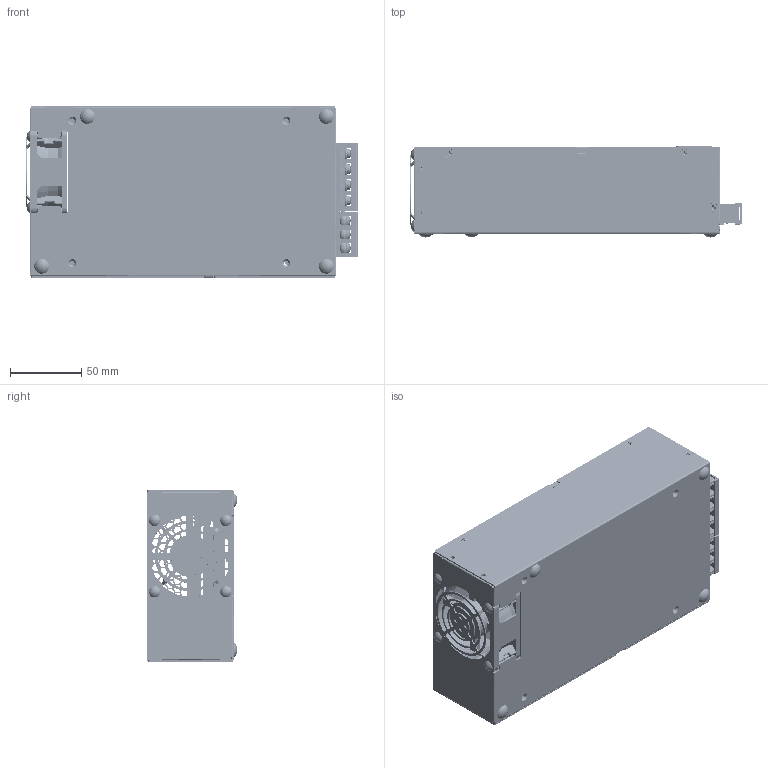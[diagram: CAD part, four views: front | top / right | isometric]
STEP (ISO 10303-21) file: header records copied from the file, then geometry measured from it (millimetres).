
FILE_DESCRIPTION((''),'2;1');
FILE_NAME('PMC-24V600W1BA_ASM','2013-04-02T',('Chinnadit.T'),(''),'PRO/ENGINEER BY PARAMETRIC TECHNOLOGY CORPORATION, 2010180','PRO/ENGINEER BY PARAMETRIC TECHNOLOGY CORPORATION, 2010180','');
FILE_SCHEMA(('CONFIG_CONTROL_DESIGN','SHAPE_APPEARANCE_LAYERS_GROUPS'));
Products named in the file (27): 330314870000; 330314870000_A_STUD-6-32-SHOUL; 330314870000_A_STUD-6-32; 330314870000_ASM; 330314880000; 3208006400; 2958058801_PWB; 307049927W_A_PIN; 307049927W_A_COVER; 307049927W_A_BT24-KO31-03-M101; 307049927W_A_T24P101-20110103; 307049927W_A_BT25U101; 307049927W_ASM; 307153717W_A_20120627; 307153717W_A_PIN; 307153717W_A_20091202; 307153717W_A_BT26U101; 307153717W_A_COVER; 307153717W_ASM; EE_VR-ADJ; EE_LED; ASSY_PWB_PMC-24V600W1BA_ASM; 362065071400; 3422001200; 3105015600; 3103300600; PMC-24V600W1BA_ASM
Assembly tree (53 placements, depth 4):
  PMC-24V600W1BA_ASM
    330314870000_ASM
      330314870000
      330314870000_A_STUD-6-32-SHOUL  x2
      330314870000_A_STUD-6-32  x3
    330314880000
    3208006400
    ASSY_PWB_PMC-24V600W1BA_ASM
      2958058801_PWB
      307049927W_ASM
        307049927W_A_PIN  x3
        307049927W_A_COVER
        307049927W_A_BT24-KO31-03-M101
        307049927W_A_T24P101-20110103  x3
        307049927W_A_BT25U101  x3
      307153717W_ASM
        307153717W_A_20120627  x4
        307153717W_A_PIN  x2
        307153717W_A_20091202
        307153717W_A_BT26U101  x4
        307153717W_A_COVER
      EE_VR-ADJ
      EE_LED
    362065071400
    3422001200  x4
    3105015600  x6
    3103300600  x4
Bounding box: 232.7 x 63.7 x 120 mm (x, y, z)
Surface area: 281617.6 mm2 (no closed solid volume)
Topology: 0 solids, 0 shells, 5936 faces, 33119 edges, 32951 vertices
Faces by surface type: bspline 5744, torus 170, sphere 22
Entity records: 381790 total; most frequent: CARTESIAN_POINT 135290, DIRECTION 33462, TRIMMED_CURVE 31356, VECTOR 29620, LINE 29620, DEFINITIONAL_REPRESENTATION 23873, PCURVE 23873, COMPOSITE_CURVE_SEGMENT 23873
